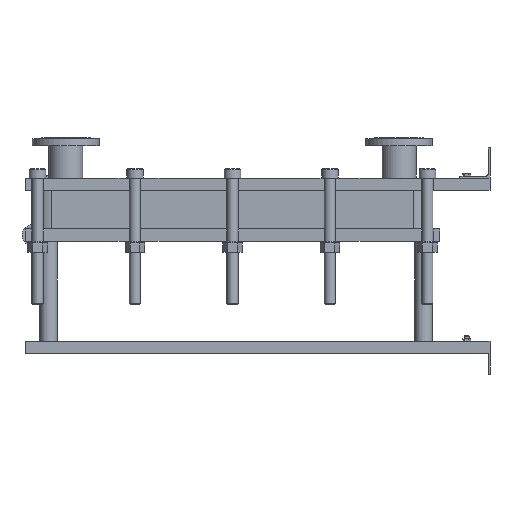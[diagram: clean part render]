
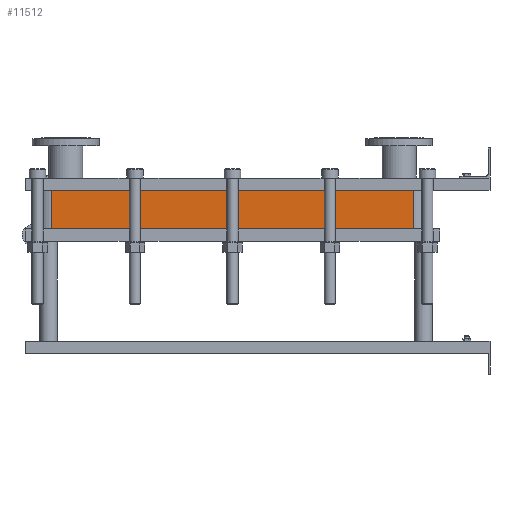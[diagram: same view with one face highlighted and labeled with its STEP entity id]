
A CAD part, left-side view. The second image highlights one B-rep face of the part: STEP entity #11512.
In plain terms, the highlighted planar face has unit normal (-1, 0, 0).
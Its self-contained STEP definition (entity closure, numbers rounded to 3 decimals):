
#1129=LINE('',#23232,#2102);
#1130=LINE('',#23236,#2103);
#1131=LINE('',#23238,#2104);
#1132=LINE('',#23239,#2105);
#2102=VECTOR('',#15887,10.);
#2103=VECTOR('',#15892,10.);
#2104=VECTOR('',#15893,10.);
#2105=VECTOR('',#15894,10.);
#3267=FACE_OUTER_BOUND('',#4093,.T.);
#4093=EDGE_LOOP('',(#10103,#10104,#10105,#10106));
#5642=VERTEX_POINT('',#23229);
#5643=VERTEX_POINT('',#23231);
#5644=VERTEX_POINT('',#23235);
#5645=VERTEX_POINT('',#23237);
#7159=EDGE_CURVE('',#5643,#5642,#1129,.T.);
#7161=EDGE_CURVE('',#5642,#5644,#1130,.T.);
#7162=EDGE_CURVE('',#5645,#5644,#1131,.T.);
#7163=EDGE_CURVE('',#5645,#5643,#1132,.T.);
#10103=ORIENTED_EDGE('',*,*,#7161,.T.);
#10104=ORIENTED_EDGE('',*,*,#7162,.F.);
#10105=ORIENTED_EDGE('',*,*,#7163,.T.);
#10106=ORIENTED_EDGE('',*,*,#7159,.T.);
#10857=PLANE('',#12751);
#11512=ADVANCED_FACE('',(#3267),#10857,.T.);
#12751=AXIS2_PLACEMENT_3D('',#23234,#15890,#15891);
#15887=DIRECTION('',(0.,0.,-1.));
#15890=DIRECTION('center_axis',(-1.,0.,0.));
#15891=DIRECTION('ref_axis',(0.,1.,0.));
#15892=DIRECTION('',(0.,-1.,0.));
#15893=DIRECTION('',(0.,0.,-1.));
#15894=DIRECTION('',(0.,1.,0.));
#23229=CARTESIAN_POINT('',(-200.,1414.,-124.2));
#23231=CARTESIAN_POINT('',(-200.,1414.,0.));
#23232=CARTESIAN_POINT('',(-200.,1414.,0.));
#23234=CARTESIAN_POINT('Origin',(-200.,248.,0.));
#23235=CARTESIAN_POINT('',(-200.,248.,-124.2));
#23236=CARTESIAN_POINT('',(-200.,539.5,-124.2));
#23237=CARTESIAN_POINT('',(-200.,248.,0.));
#23238=CARTESIAN_POINT('',(-200.,248.,0.));
#23239=CARTESIAN_POINT('',(-200.,248.,0.));
